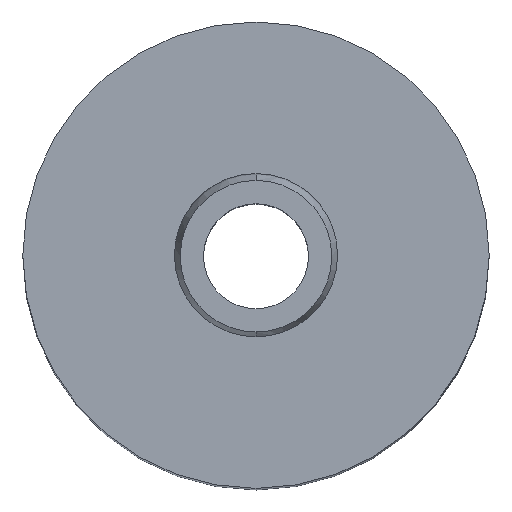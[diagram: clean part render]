
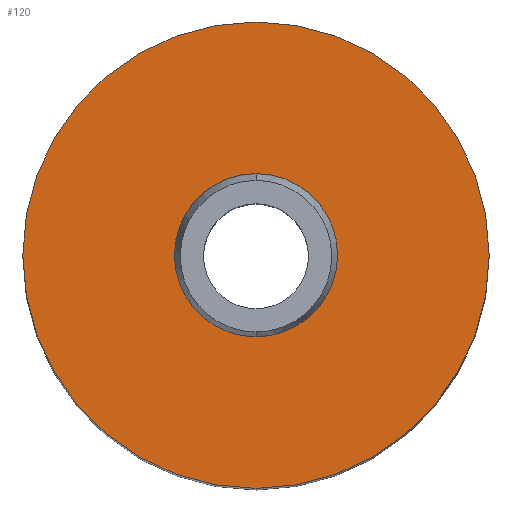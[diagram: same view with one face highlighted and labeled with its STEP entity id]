
A CAD part, top view. The second image highlights one B-rep face of the part: STEP entity #120.
In plain terms, the highlighted planar face has unit normal (0, 0, 1).
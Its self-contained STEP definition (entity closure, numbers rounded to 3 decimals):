
#104=PLANE('',#373);
#109=FACE_BOUND('',#163,.T.);
#110=FACE_BOUND('',#164,.T.);
#120=ADVANCED_FACE('',(#109,#110),#104,.T.);
#163=EDGE_LOOP('',(#221,#222));
#164=EDGE_LOOP('',(#223,#224));
#180=CIRCLE('',#361,20.);
#181=CIRCLE('',#363,20.);
#185=CIRCLE('',#369,7.);
#186=CIRCLE('',#371,7.);
#221=ORIENTED_EDGE('',*,*,#298,.F.);
#222=ORIENTED_EDGE('',*,*,#299,.F.);
#223=ORIENTED_EDGE('',*,*,#306,.T.);
#224=ORIENTED_EDGE('',*,*,#304,.T.);
#273=VERTEX_POINT('',#498);
#276=VERTEX_POINT('',#503);
#279=VERTEX_POINT('',#515);
#280=VERTEX_POINT('',#517);
#298=EDGE_CURVE('',#276,#273,#180,.T.);
#299=EDGE_CURVE('',#273,#276,#181,.T.);
#304=EDGE_CURVE('',#280,#279,#185,.T.);
#306=EDGE_CURVE('',#279,#280,#186,.T.);
#361=AXIS2_PLACEMENT_3D('',#504,#406,#407);
#363=AXIS2_PLACEMENT_3D('',#506,#410,#411);
#369=AXIS2_PLACEMENT_3D('',#516,#423,#424);
#371=AXIS2_PLACEMENT_3D('',#520,#428,#429);
#373=AXIS2_PLACEMENT_3D('',#522,#432,#433);
#406=DIRECTION('',(0.,0.,-1.));
#407=DIRECTION('',(1.,0.,0.));
#410=DIRECTION('',(0.,0.,-1.));
#411=DIRECTION('',(-1.,0.,0.));
#423=DIRECTION('',(0.,0.,-1.));
#424=DIRECTION('',(1.,0.,0.));
#428=DIRECTION('',(0.,0.,-1.));
#429=DIRECTION('',(-1.,0.,0.));
#432=DIRECTION('',(0.,0.,1.));
#433=DIRECTION('',(-1.,0.,0.));
#498=CARTESIAN_POINT('',(0.,20.,80.));
#503=CARTESIAN_POINT('',(0.,-20.,80.));
#504=CARTESIAN_POINT('',(0.,0.,80.));
#506=CARTESIAN_POINT('',(0.,0.,80.));
#515=CARTESIAN_POINT('',(0.,7.,80.));
#516=CARTESIAN_POINT('',(0.,0.,80.));
#517=CARTESIAN_POINT('',(0.,-7.,80.));
#520=CARTESIAN_POINT('',(0.,0.,80.));
#522=CARTESIAN_POINT('',(0.,0.,80.));
